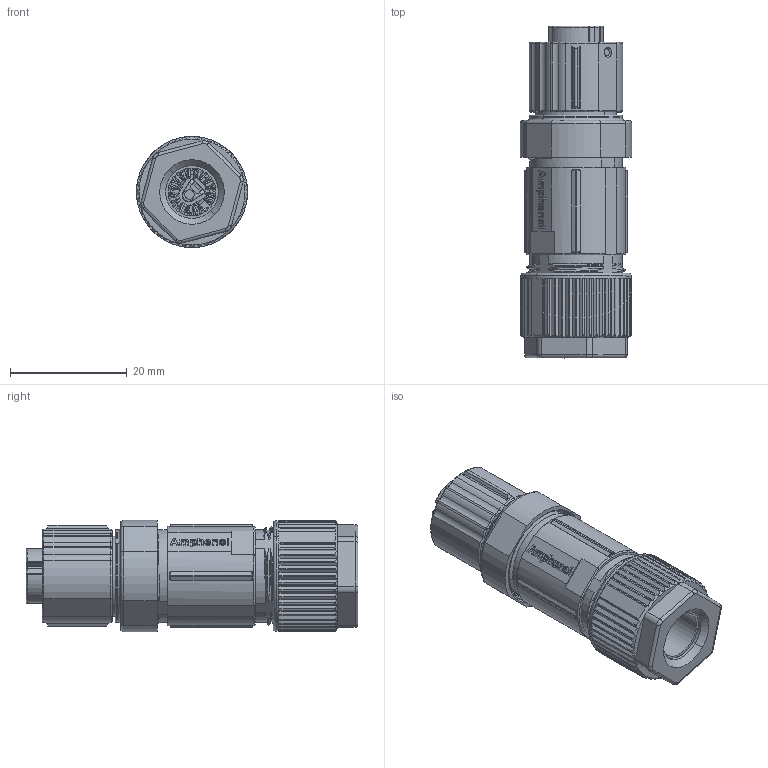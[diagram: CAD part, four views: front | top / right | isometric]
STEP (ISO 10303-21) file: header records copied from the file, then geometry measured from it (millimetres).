
FILE_DESCRIPTION((''),'2;1');
FILE_NAME('ASD-05BFFB-QL7001_SW0001','2023-03-29T',('L180019'),(''),'PRO/ENGINEER BY PARAMETRIC TECHNOLOGY CORPORATION, 2017170','PRO/ENGINEER BY PARAMETRIC TECHNOLOGY CORPORATION, 2017170','');
FILE_SCHEMA(('CONFIG_CONTROL_DESIGN'));
Products named in the file (1): ASD-05BFFB-QL7001_SW0001
Bounding box: 19 x 56.75 x 19 mm (x, y, z)
Volume: 8706.2 mm3; surface area: 12278.4 mm2
Topology: 2 solids, 4 shells, 2423 faces, 6755 edges, 4326 vertices
Faces by surface type: plane 1041, cylinder 653, bspline 266, extrusion 178, torus 152, cone 123, sphere 10
Entity records: 114876 total; most frequent: CARTESIAN_POINT 55456, ORIENTED_EDGE 13498, DIRECTION 10784, EDGE_CURVE 6749, VERTEX_POINT 4326, AXIS2_PLACEMENT_3D 3638, VECTOR 3508, LINE 3330
